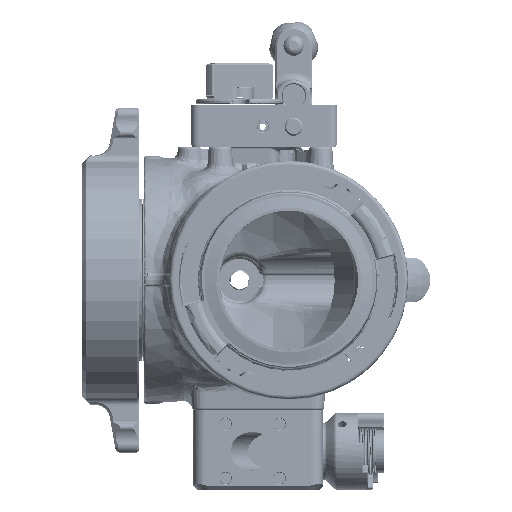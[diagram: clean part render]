
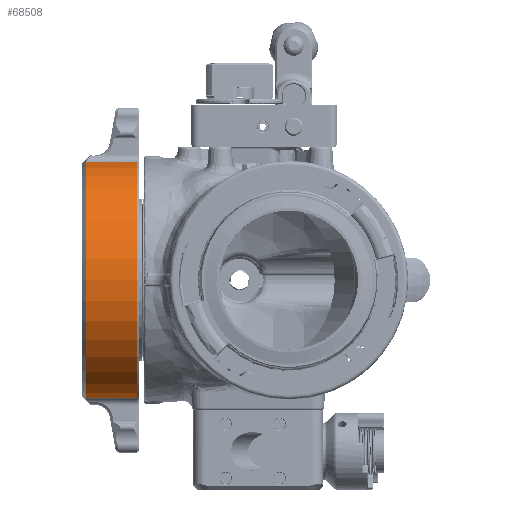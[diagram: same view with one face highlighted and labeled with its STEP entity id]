
A CAD part, front view. The second image highlights one B-rep face of the part: STEP entity #68508.
In plain terms, the highlighted cylindrical face has radius 98.425 mm (diameter 196.85 mm), a partial arc.
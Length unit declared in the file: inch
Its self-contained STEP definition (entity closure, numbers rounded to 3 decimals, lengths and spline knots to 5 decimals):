
#449 = EDGE_CURVE ( 'NONE', #66432, #83953, #226765, .T. ) ;
#1425 = AXIS2_PLACEMENT_3D ( 'NONE', #153772, #26297, #178884 ) ;
#22532 = CARTESIAN_POINT ( 'NONE',  ( -3.3075, -0.68106, 3.81468 ) ) ;
#26297 = DIRECTION ( 'NONE',  ( 1., 0., 0. ) ) ;
#38584 = LINE ( 'NONE', #296915, #89173 ) ;
#45227 = CARTESIAN_POINT ( 'NONE',  ( -4.983, -0.68106, -3.81468 ) ) ;
#49040 = AXIS2_PLACEMENT_3D ( 'NONE', #57508, #108687, #308216 ) ;
#51016 = EDGE_CURVE ( 'NONE', #83953, #151498, #38584, .T. ) ;
#57294 = ORIENTED_EDGE ( 'NONE', *, *, #449, .F. ) ;
#57508 = CARTESIAN_POINT ( 'NONE',  ( -3.3075, 0., 0. ) ) ;
#66432 = VERTEX_POINT ( 'NONE', #45227 ) ;
#68508 = ADVANCED_FACE ( 'NONE', ( #99715 ), #107278, .T. ) ;
#82783 = LINE ( 'NONE', #197042, #254593 ) ;
#83953 = VERTEX_POINT ( 'NONE', #225994 ) ;
#89173 = VECTOR ( 'NONE', #321895, 39.37008 ) ;
#99715 = FACE_OUTER_BOUND ( 'NONE', #164655, .T. ) ;
#107278 = CYLINDRICAL_SURFACE ( 'NONE', #1425, 3.875 ) ;
#108687 = DIRECTION ( 'NONE',  ( -1., 0., 0. ) ) ;
#121719 = DIRECTION ( 'NONE',  ( 1., 0., 0. ) ) ;
#136420 = EDGE_CURVE ( 'NONE', #153410, #151498, #281116, .T. ) ;
#151498 = VERTEX_POINT ( 'NONE', #22532 ) ;
#153410 = VERTEX_POINT ( 'NONE', #216113 ) ;
#153772 = CARTESIAN_POINT ( 'NONE',  ( -5.158, 0., 0. ) ) ;
#164655 = EDGE_LOOP ( 'NONE', ( #277591, #285373, #194215, #57294 ) ) ;
#165601 = DIRECTION ( 'NONE',  ( -1., 0., 0. ) ) ;
#178884 = DIRECTION ( 'NONE',  ( 0., 0., -1. ) ) ;
#189387 = AXIS2_PLACEMENT_3D ( 'NONE', #191781, #165601, #320248 ) ;
#191781 = CARTESIAN_POINT ( 'NONE',  ( -4.983, 0., 0. ) ) ;
#194215 = ORIENTED_EDGE ( 'NONE', *, *, #51016, .F. ) ;
#197042 = CARTESIAN_POINT ( 'NONE',  ( -5.158, -0.68106, -3.81468 ) ) ;
#216113 = CARTESIAN_POINT ( 'NONE',  ( -3.3075, -0.68106, -3.81468 ) ) ;
#225994 = CARTESIAN_POINT ( 'NONE',  ( -4.983, -0.68106, 3.81468 ) ) ;
#226765 = CIRCLE ( 'NONE', #189387, 3.875 ) ;
#254593 = VECTOR ( 'NONE', #121719, 39.37008 ) ;
#257033 = EDGE_CURVE ( 'NONE', #66432, #153410, #82783, .T. ) ;
#277591 = ORIENTED_EDGE ( 'NONE', *, *, #257033, .T. ) ;
#281116 = CIRCLE ( 'NONE', #49040, 3.875 ) ;
#285373 = ORIENTED_EDGE ( 'NONE', *, *, #136420, .T. ) ;
#296915 = CARTESIAN_POINT ( 'NONE',  ( -5.158, -0.68106, 3.81468 ) ) ;
#308216 = DIRECTION ( 'NONE',  ( 0., 0., 1. ) ) ;
#320248 = DIRECTION ( 'NONE',  ( 0., 0., -1. ) ) ;
#321895 = DIRECTION ( 'NONE',  ( 1., 0., 0. ) ) ;
